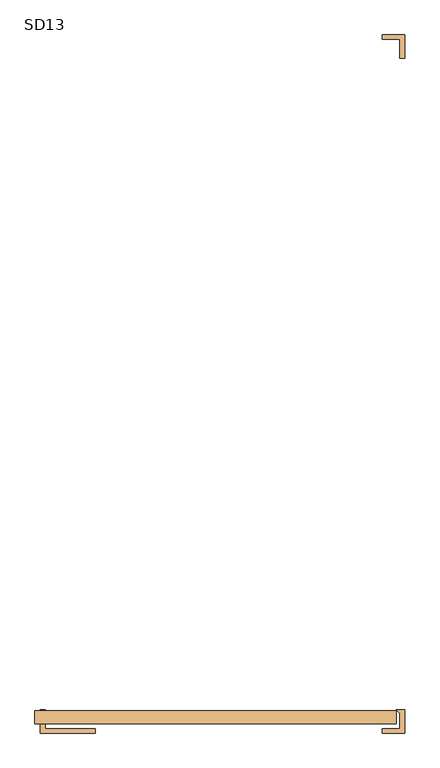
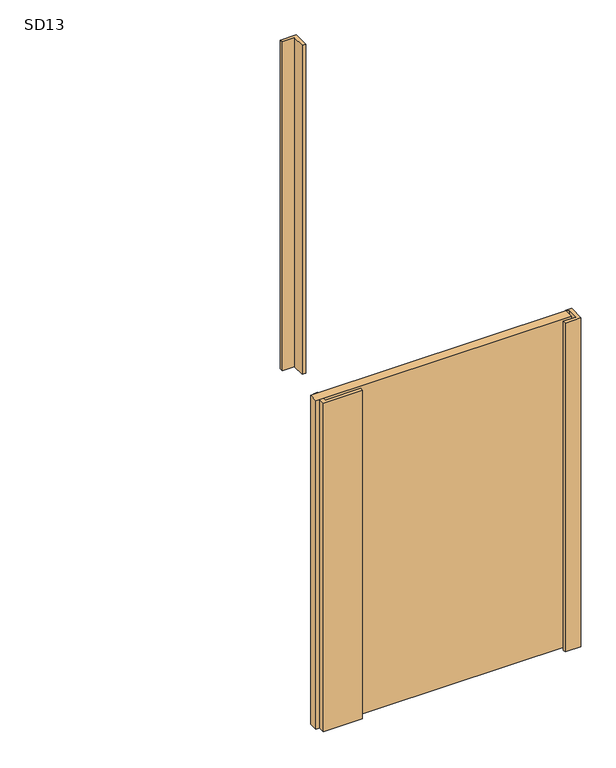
"""IFC4 building model written with IfcOpenShell, lengths in millimetres: door geometry, 営_随閉扉 B階段 2～4F : SD13."""

from ifc_helpers import new_model, si_unit, origin, origin_with_axes, place, context, project, spatial, polyline, outline, extrude, source, transform, mapped, element, save


def sd13_d994cb3e(model_context):
    return source(origin(), model_context, "Body", "SweptSolid", [
        extrude(outline(polyline([(0.0, 198.0), (0.0, 138.0), (-1681.5788355, 138.0), (-1681.5788355, 198.0), (0.0, 198.0)])), origin_with_axes(), (0.0, 0.0, 1.0), 2290.0),
        extrude(outline(polyline([(-1632.5, 203.0), (-1632.5, 115.0), (-1400.0, 115.0), (-1400.0, 95.0), (-1657.5, 95.0), (-1657.5, 203.0), (-1632.5, 203.0)])), origin_with_axes(), (0.0, 0.0, 1.0), 2290.0),
        extrude(outline(polyline([(16.6, 115.4999668), (16.6, 187.1372251), (0.7372583, 202.9999668), (40.0, 202.9999668), (40.0, 94.9999527), (-65.0, 94.9999564), (-65.0, 115.4999668), (16.6, 115.4999668)])), origin_with_axes(), (0.0, 0.0, 1.0), 2290.0),
        extrude(outline(polyline([(16.6, 3324.5470689), (-63.4, 3324.5470689), (-63.4, 3345.0470689), (40.0, 3345.0470689), (40.0, 3237.0470689), (16.6, 3237.0470689), (16.6, 3324.5470689)])), origin_with_axes(), (0.0, 0.0, 1.0), 2290.0),
    ])


if __name__ == "__main__":
    model = new_model("IFC4")
    model_context = context("Model", 3, world=origin())
    ifc_project = project(units=[si_unit("LENGTHUNIT", "METRE", prefix="MILLI")], contexts=[model_context])
    site = spatial("IfcSite", under=ifc_project)
    building = spatial("IfcBuilding", under=site)
    placement = place(None, origin())
    sd13_shape = sd13_d994cb3e(model_context)
    element("IfcDoor", 1, ObjectType="営_随閉扉 B階段 2～4F : SD13", at=placement, inside=building, context=model_context, shape_type="MappedRepresentation", body=[
        mapped(sd13_shape, transform((0.0, 0.0, 0.0), x_axis=(1.0, 0.0, 0.0), y_axis=(0.0, 1.0, 0.0), z_axis=(0.0, 0.0, 1.0))),
    ])
    save(model, "model.ifc")
